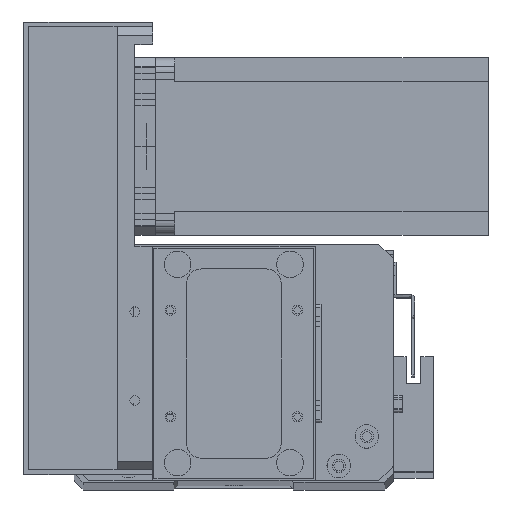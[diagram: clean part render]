
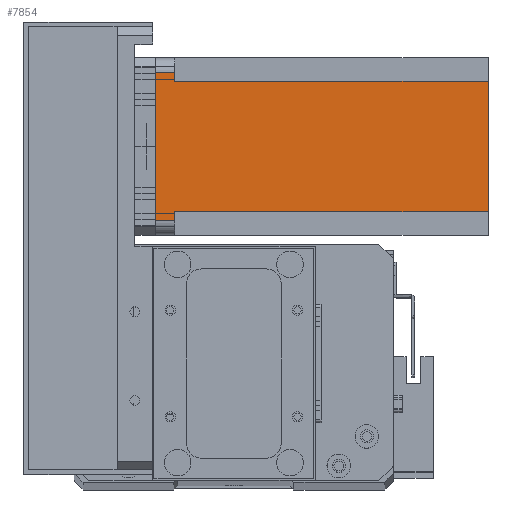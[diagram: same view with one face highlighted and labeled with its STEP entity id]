
A CAD part, top view. The second image highlights one B-rep face of the part: STEP entity #7854.
In plain terms, the highlighted planar face has unit normal (0, 0, 1) as drawn and (0, -1, 0) by its records, which use the part's own axes.
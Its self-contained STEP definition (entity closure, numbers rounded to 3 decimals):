
#58 = CARTESIAN_POINT ( 'NONE',  ( 55., 0., -6.5 ) ) ;
#199 = LINE ( 'NONE', #11397, #12707 ) ;
#1053 = LINE ( 'NONE', #7110, #26226 ) ;
#1992 = VECTOR ( 'NONE', #25255, 1000. ) ;
#2662 = VECTOR ( 'NONE', #16135, 1000. ) ;
#2700 = CARTESIAN_POINT ( 'NONE',  ( 52., 0., -6.5 ) ) ;
#2844 = DIRECTION ( 'NONE',  ( 0., -1., 0. ) ) ;
#3394 = CARTESIAN_POINT ( 'NONE',  ( 0., 0., -112.5 ) ) ;
#3533 = DIRECTION ( 'NONE',  ( 1., 0., 0. ) ) ;
#4442 = VECTOR ( 'NONE', #9322, 1000. ) ;
#4628 = CARTESIAN_POINT ( 'NONE',  ( 52., 0., -112.5 ) ) ;
#5372 = CARTESIAN_POINT ( 'NONE',  ( 5., 0., -6.5 ) ) ;
#6195 = EDGE_CURVE ( 'NONE', #17632, #8003, #13147, .T. ) ;
#6346 = EDGE_LOOP ( 'NONE', ( #20940, #11680, #12026, #19559, #9735, #26866, #24278, #25958 ) ) ;
#6398 = EDGE_CURVE ( 'NONE', #16529, #30207, #1053, .T. ) ;
#6689 = CARTESIAN_POINT ( 'NONE',  ( 8., 0., -112.5 ) ) ;
#7110 = CARTESIAN_POINT ( 'NONE',  ( 0., 0., 0. ) ) ;
#7299 = VERTEX_POINT ( 'NONE', #5372 ) ;
#7854 = ADVANCED_FACE ( 'NONE', ( #9160 ), #24699, .T. ) ;
#8003 = VERTEX_POINT ( 'NONE', #27665 ) ;
#8095 = CARTESIAN_POINT ( 'NONE',  ( 5., 0., 0. ) ) ;
#8472 = VERTEX_POINT ( 'NONE', #2700 ) ;
#8609 = LINE ( 'NONE', #27651, #1992 ) ;
#9160 = FACE_OUTER_BOUND ( 'NONE', #6346, .T. ) ;
#9322 = DIRECTION ( 'NONE',  ( 0., 0., 1. ) ) ;
#9401 = EDGE_CURVE ( 'NONE', #26482, #30207, #23157, .T. ) ;
#9735 = ORIENTED_EDGE ( 'NONE', *, *, #23286, .F. ) ;
#9745 = LINE ( 'NONE', #4628, #21925 ) ;
#10222 = CARTESIAN_POINT ( 'NONE',  ( 0., 0., -112.5 ) ) ;
#10809 = EDGE_CURVE ( 'NONE', #8472, #8003, #9745, .T. ) ;
#11397 = CARTESIAN_POINT ( 'NONE',  ( 8., 0., -6.5 ) ) ;
#11680 = ORIENTED_EDGE ( 'NONE', *, *, #9401, .T. ) ;
#12026 = ORIENTED_EDGE ( 'NONE', *, *, #6398, .F. ) ;
#12078 = EDGE_CURVE ( 'NONE', #8472, #26482, #17847, .T. ) ;
#12369 = VECTOR ( 'NONE', #3533, 1000. ) ;
#12707 = VECTOR ( 'NONE', #21155, 1000. ) ;
#13147 = LINE ( 'NONE', #3394, #12369 ) ;
#13250 = EDGE_CURVE ( 'NONE', #17632, #27255, #27714, .T. ) ;
#16135 = DIRECTION ( 'NONE',  ( 0., 0., 1. ) ) ;
#16529 = VERTEX_POINT ( 'NONE', #8095 ) ;
#16827 = DIRECTION ( 'NONE',  ( 1., 0., 0. ) ) ;
#17109 = VECTOR ( 'NONE', #16827, 1000. ) ;
#17632 = VERTEX_POINT ( 'NONE', #6689 ) ;
#17847 = LINE ( 'NONE', #26127, #17109 ) ;
#18416 = AXIS2_PLACEMENT_3D ( 'NONE', #10222, #2844, #20074 ) ;
#18551 = CARTESIAN_POINT ( 'NONE',  ( 8., 0., -112.5 ) ) ;
#18923 = EDGE_CURVE ( 'NONE', #16529, #7299, #8609, .T. ) ;
#19559 = ORIENTED_EDGE ( 'NONE', *, *, #18923, .T. ) ;
#20074 = DIRECTION ( 'NONE',  ( 0., 0., -1. ) ) ;
#20940 = ORIENTED_EDGE ( 'NONE', *, *, #12078, .T. ) ;
#21155 = DIRECTION ( 'NONE',  ( -1., 0., 0. ) ) ;
#21925 = VECTOR ( 'NONE', #31056, 1000. ) ;
#23157 = LINE ( 'NONE', #23839, #4442 ) ;
#23286 = EDGE_CURVE ( 'NONE', #27255, #7299, #199, .T. ) ;
#23705 = DIRECTION ( 'NONE',  ( 1., 0., 0. ) ) ;
#23839 = CARTESIAN_POINT ( 'NONE',  ( 55., 0., -112.5 ) ) ;
#24278 = ORIENTED_EDGE ( 'NONE', *, *, #6195, .T. ) ;
#24699 = PLANE ( 'NONE',  #18416 ) ;
#25255 = DIRECTION ( 'NONE',  ( 0., 0., -1. ) ) ;
#25958 = ORIENTED_EDGE ( 'NONE', *, *, #10809, .F. ) ;
#26127 = CARTESIAN_POINT ( 'NONE',  ( 52., 0., -6.5 ) ) ;
#26226 = VECTOR ( 'NONE', #23705, 1000. ) ;
#26482 = VERTEX_POINT ( 'NONE', #58 ) ;
#26866 = ORIENTED_EDGE ( 'NONE', *, *, #13250, .F. ) ;
#27255 = VERTEX_POINT ( 'NONE', #28277 ) ;
#27651 = CARTESIAN_POINT ( 'NONE',  ( 5., 0., -112.5 ) ) ;
#27665 = CARTESIAN_POINT ( 'NONE',  ( 52., 0., -112.5 ) ) ;
#27714 = LINE ( 'NONE', #18551, #2662 ) ;
#28277 = CARTESIAN_POINT ( 'NONE',  ( 8., 0., -6.5 ) ) ;
#28703 = CARTESIAN_POINT ( 'NONE',  ( 55., 0., 0. ) ) ;
#30207 = VERTEX_POINT ( 'NONE', #28703 ) ;
#31056 = DIRECTION ( 'NONE',  ( 0., 0., -1. ) ) ;
